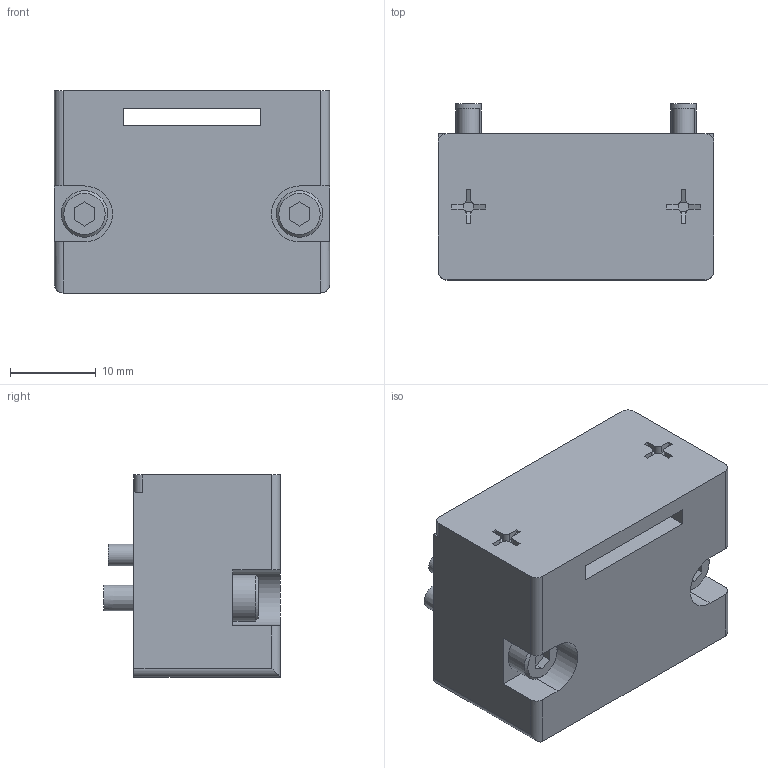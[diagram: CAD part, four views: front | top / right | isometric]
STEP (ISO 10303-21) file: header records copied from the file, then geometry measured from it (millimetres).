
FILE_DESCRIPTION(('STEP AP214'),'1');
FILE_NAME('KHB-7_25RS-D38_ver1.stp','2026-04-24T02:58:39',(' '),(' '),'Spatial InterOp 3D',' ',' ');
FILE_SCHEMA(('AUTOMOTIVE_DESIGN { 1 0 10303 214 1 1 1 1 }'));
Length unit declared in the file: millimetre
Products named in the file (1): KHB-7~25RS-D38_ver1
Bounding box: 32 x 20.5 x 23.5 mm (x, y, z)
Volume: 11876.7 mm3; surface area: 5073 mm2
Topology: 1 solids, 7 shells, 198 faces, 432 edges, 284 vertices
Faces by surface type: plane 134, cylinder 56, cone 8
Full cylindrical faces by diameter (mm): 1.02 x8, 1.8 x8, 2 x8, 2.15 x2, 2.5 x4, 3 x4, 3.5 x2, 5.41 x2
Entity records: 6662 total; most frequent: DIRECTION 892, CARTESIAN_POINT 845, ORIENTED_EDGE 748, EDGE_CURVE 374, AXIS2_PLACEMENT_3D 319, EDGE_LOOP 286, VERTEX_POINT 272, LINE 254
